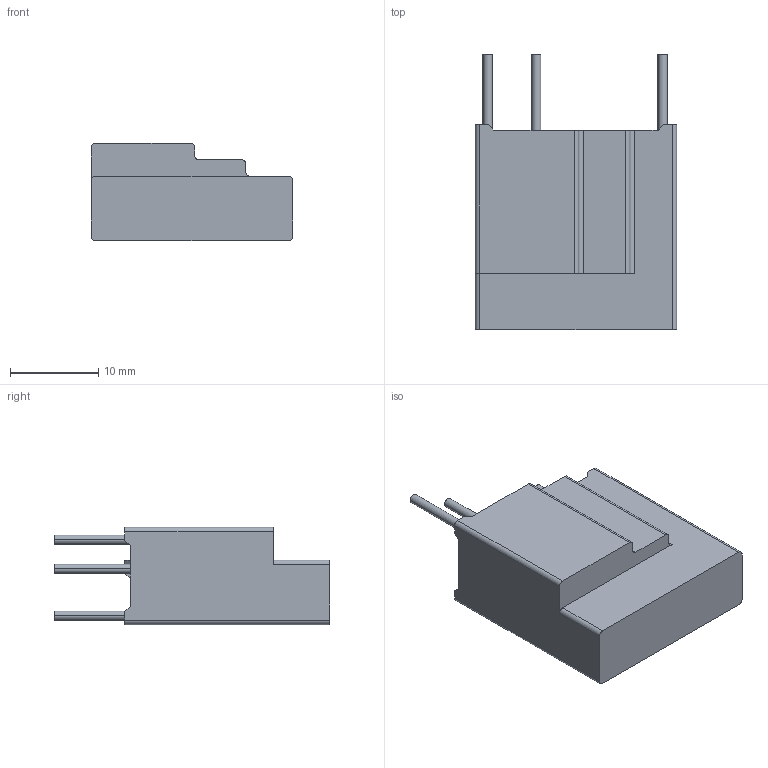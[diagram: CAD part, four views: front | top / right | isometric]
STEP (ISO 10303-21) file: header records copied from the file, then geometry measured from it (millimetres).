
FILE_DESCRIPTION((''),'2;1');
FILE_NAME('20S4401-20200616','2020-06-19T',('set'),(''),'PRO/ENGINEER BY PARAMETRIC TECHNOLOGY CORPORATION, 2012310','PRO/ENGINEER BY PARAMETRIC TECHNOLOGY CORPORATION, 2012310','');
FILE_SCHEMA(('CONFIG_CONTROL_DESIGN','SHAPE_APPEARANCE_LAYERS_GROUPS'));
Length unit declared in the file: millimetre
Products named in the file (1): 20S4401-20200616
Bounding box: 22.8 x 31.2 x 11 mm (x, y, z)
Volume: 1410.7 mm3; surface area: 3648.4 mm2
Topology: 1 solids, 2 shells, 104 faces, 291 edges, 194 vertices
Faces by surface type: plane 78, cylinder 26
Entity records: 3376 total; most frequent: CARTESIAN_POINT 589, ORIENTED_EDGE 582, DIRECTION 551, EDGE_CURVE 291, VECTOR 239, LINE 239, VERTEX_POINT 194, AXIS2_PLACEMENT_3D 156
